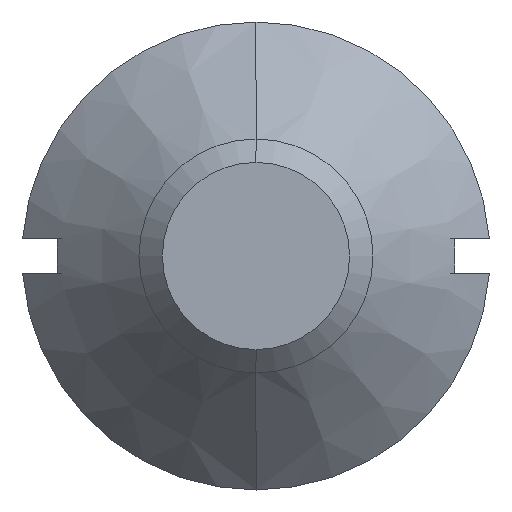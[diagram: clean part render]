
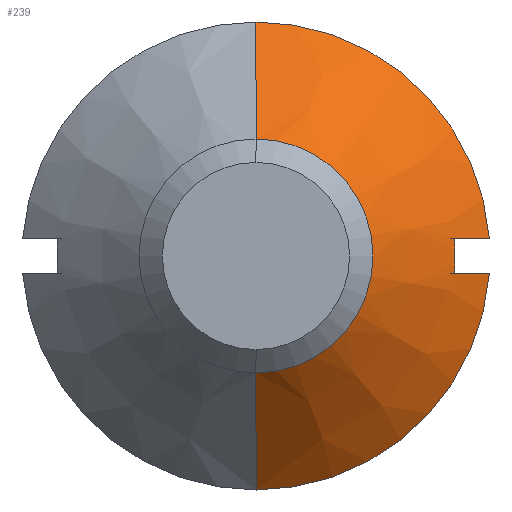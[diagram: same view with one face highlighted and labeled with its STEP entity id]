
A CAD part, front view. The second image highlights one B-rep face of the part: STEP entity #239.
In plain terms, the highlighted conical face has half-angle 45 degrees and reference radius 2 mm.
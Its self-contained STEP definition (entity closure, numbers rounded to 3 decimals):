
#1 = EDGE_CURVE ( 'NONE', #347, #309, #319, .T. ) ;
#6 = EDGE_CURVE ( 'NONE', #321, #310, #66, .T. ) ;
#15 = EDGE_CURVE ( 'NONE', #321, #341, #326, .T. ) ;
#17 = EDGE_CURVE ( 'NONE', #310, #343, #351, .T. ) ;
#20 = EDGE_CURVE ( 'NONE', #318, #329, #311, .T. ) ;
#21 = EDGE_CURVE ( 'NONE', #329, #341, #68, .T. ) ;
#22 = AXIS2_PLACEMENT_3D ( 'NONE', #76, #91, #77 ) ;
#26 = EDGE_CURVE ( 'NONE', #309, #343, #315, .T. ) ;
#27 = EDGE_CURVE ( 'NONE', #347, #318, #332, .T. ) ;
#30 = AXIS2_PLACEMENT_3D ( 'NONE', #94, #114, #116 ) ;
#40 = AXIS2_PLACEMENT_3D ( 'NONE', #123, #133, #175 ) ;
#43 = AXIS2_PLACEMENT_3D ( 'NONE', #190, #209, #230 ) ;
#48 = AXIS2_PLACEMENT_3D ( 'NONE', #113, #132, #97 ) ;
#66 = B_SPLINE_CURVE_WITH_KNOTS ( 'NONE', 3,
 ( #102, #101, #127, #104 ),
 .UNSPECIFIED., .F., .F.,
 ( 4, 4 ),
 ( 0.008, 0.009 ),
 .UNSPECIFIED. ) ;
#68 = B_SPLINE_CURVE_WITH_KNOTS ( 'NONE', 3,
 ( #158, #142, #178, #179 ),
 .UNSPECIFIED., .F., .F.,
 ( 4, 4 ),
 ( 0.003, 0.004 ),
 .UNSPECIFIED. ) ;
#76 = CARTESIAN_POINT ( 'NONE',  ( 0., 7., 0. ) ) ;
#77 = DIRECTION ( 'NONE',  ( 0., 0., -1. ) ) ;
#91 = DIRECTION ( 'NONE',  ( 0., -1., 0. ) ) ;
#94 = CARTESIAN_POINT ( 'NONE',  ( 0., 7.7, 0. ) ) ;
#97 = DIRECTION ( 'NONE',  ( 0., 0., -1. ) ) ;
#101 = CARTESIAN_POINT ( 'NONE',  ( 1.794, 7.8, 0.15 ) ) ;
#102 = CARTESIAN_POINT ( 'NONE',  ( 1.693, 7.7, 0.15 ) ) ;
#104 = CARTESIAN_POINT ( 'NONE',  ( 1.994, 8., 0.15 ) ) ;
#113 = CARTESIAN_POINT ( 'NONE',  ( 0., 8., 0. ) ) ;
#114 = DIRECTION ( 'NONE',  ( 0., 1., 0. ) ) ;
#116 = DIRECTION ( 'NONE',  ( 0., 0., 1. ) ) ;
#119 = CARTESIAN_POINT ( 'NONE',  ( 0., 8., 2. ) ) ;
#121 = DIRECTION ( 'NONE',  ( 0., 0.707, 0.707 ) ) ;
#123 = CARTESIAN_POINT ( 'NONE',  ( 0., 8., 0. ) ) ;
#127 = CARTESIAN_POINT ( 'NONE',  ( 1.894, 7.9, 0.15 ) ) ;
#132 = DIRECTION ( 'NONE',  ( 0., -1., 0. ) ) ;
#133 = DIRECTION ( 'NONE',  ( 0., -1., 0. ) ) ;
#142 = CARTESIAN_POINT ( 'NONE',  ( 1.894, 7.9, -0.15 ) ) ;
#158 = CARTESIAN_POINT ( 'NONE',  ( 1.994, 8., -0.15 ) ) ;
#166 = CARTESIAN_POINT ( 'NONE',  ( 0., 8., -2. ) ) ;
#175 = DIRECTION ( 'NONE',  ( 0., 0., -1. ) ) ;
#176 = DIRECTION ( 'NONE',  ( 0., 0.707, -0.707 ) ) ;
#178 = CARTESIAN_POINT ( 'NONE',  ( 1.794, 7.8, -0.15 ) ) ;
#179 = CARTESIAN_POINT ( 'NONE',  ( 1.693, 7.7, -0.15 ) ) ;
#188 = CARTESIAN_POINT ( 'NONE',  ( 1.994, 8., -0.15 ) ) ;
#189 = CARTESIAN_POINT ( 'NONE',  ( 0., 8., 2. ) ) ;
#190 = CARTESIAN_POINT ( 'NONE',  ( 0., 8., 0. ) ) ;
#193 = CARTESIAN_POINT ( 'NONE',  ( 0., 7., -1. ) ) ;
#198 = CARTESIAN_POINT ( 'NONE',  ( 1.994, 8., 0.15 ) ) ;
#209 = DIRECTION ( 'NONE',  ( 0., 1., 0. ) ) ;
#210 = CARTESIAN_POINT ( 'NONE',  ( 1.693, 7.7, 0.15 ) ) ;
#213 = CARTESIAN_POINT ( 'NONE',  ( 0., 7., 1. ) ) ;
#217 = CARTESIAN_POINT ( 'NONE',  ( 1.693, 7.7, -0.15 ) ) ;
#220 = CARTESIAN_POINT ( 'NONE',  ( 0., 8., -2. ) ) ;
#230 = DIRECTION ( 'NONE',  ( 0., 0., 1. ) ) ;
#239 = ADVANCED_FACE ( 'NONE', ( #377 ), #366, .T. ) ;
#243 = EDGE_LOOP ( 'NONE', ( #282, #265, #260, #259, #303, #302, #267, #249 ) ) ;
#249 = ORIENTED_EDGE ( 'NONE', *, *, #26, .F. ) ;
#259 = ORIENTED_EDGE ( 'NONE', *, *, #21, .T. ) ;
#260 = ORIENTED_EDGE ( 'NONE', *, *, #20, .T. ) ;
#265 = ORIENTED_EDGE ( 'NONE', *, *, #27, .T. ) ;
#267 = ORIENTED_EDGE ( 'NONE', *, *, #17, .T. ) ;
#282 = ORIENTED_EDGE ( 'NONE', *, *, #1, .F. ) ;
#302 = ORIENTED_EDGE ( 'NONE', *, *, #6, .T. ) ;
#303 = ORIENTED_EDGE ( 'NONE', *, *, #15, .F. ) ;
#309 = VERTEX_POINT ( 'NONE', #213 ) ;
#310 = VERTEX_POINT ( 'NONE', #198 ) ;
#311 = CIRCLE ( 'NONE', #40, 2. ) ;
#315 = LINE ( 'NONE', #119, #323 ) ;
#318 = VERTEX_POINT ( 'NONE', #220 ) ;
#319 = CIRCLE ( 'NONE', #22, 1. ) ;
#321 = VERTEX_POINT ( 'NONE', #210 ) ;
#323 = VECTOR ( 'NONE', #121, 1000. ) ;
#326 = CIRCLE ( 'NONE', #30, 1.7 ) ;
#329 = VERTEX_POINT ( 'NONE', #188 ) ;
#332 = LINE ( 'NONE', #166, #360 ) ;
#341 = VERTEX_POINT ( 'NONE', #217 ) ;
#343 = VERTEX_POINT ( 'NONE', #189 ) ;
#347 = VERTEX_POINT ( 'NONE', #193 ) ;
#351 = CIRCLE ( 'NONE', #48, 2. ) ;
#360 = VECTOR ( 'NONE', #176, 1000. ) ;
#366 = CONICAL_SURFACE ( 'NONE', #43, 2., 0.785 ) ;
#377 = FACE_OUTER_BOUND ( 'NONE', #243, .T. ) ;
